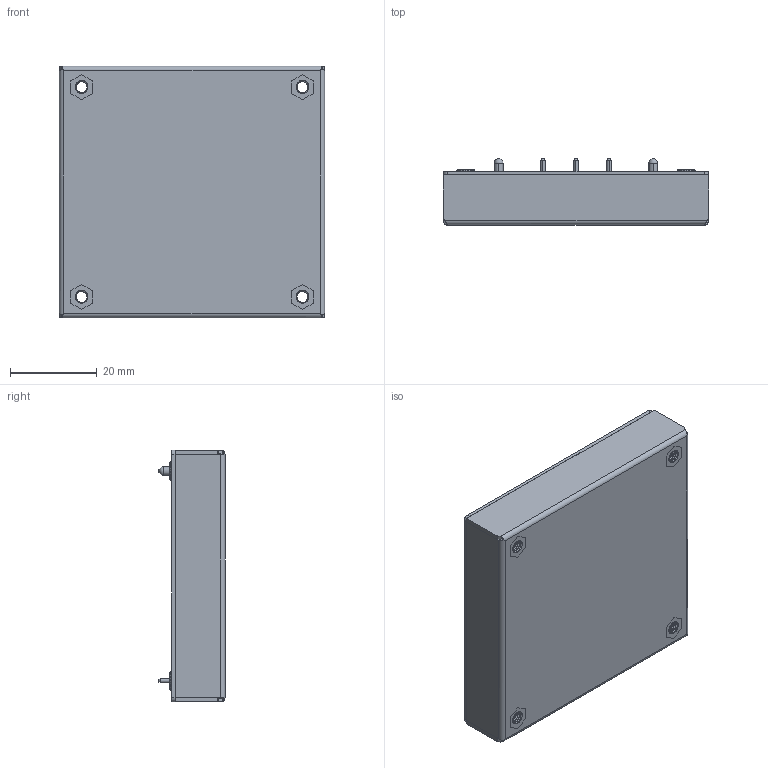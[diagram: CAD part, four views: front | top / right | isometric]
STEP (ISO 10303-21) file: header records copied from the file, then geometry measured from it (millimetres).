
FILE_DESCRIPTION (( 'STEP AP214' ), '1' );
FILE_NAME ('DV754HE.STEP', '2018-01-24T02:34:26', ( 'cincon' ), ( '' ), 'SwSTEP 2.0', 'SolidWorks 2008', '' );
FILE_SCHEMA (( 'AUTOMOTIVE_DESIGN' ));
Length unit declared in the file: millimetre
Products named in the file (6): DV75HE M3 Pillars; DV75HE PCB+Glue; DV75HE BASE; DV75HE CASE; DV754HE
Assembly tree (8 placements, depth 3):
  DV754HE
    DV75HE BASE
    DV75HE CASE
      DV75HE M3 Pillars  x4
      DV75HE CASE
    DV75HE PCB+Glue
Bounding box: 61 x 15.2 x 57.93 mm (x, y, z)
Volume: 43172.1 mm3; surface area: 30512.8 mm2
Topology: 7 solids, 7 shells, 474 faces, 1281 edges, 844 vertices
Faces by surface type: cylinder 305, plane 125, cone 30, bspline 12, sphere 2
Entity records: 12091 total; most frequent: CARTESIAN_POINT 5931, ORIENTED_EDGE 1302, DIRECTION 1196, EDGE_CURVE 651, VERTEX_POINT 426, AXIS2_PLACEMENT_3D 426, VECTOR 344, LINE 344
